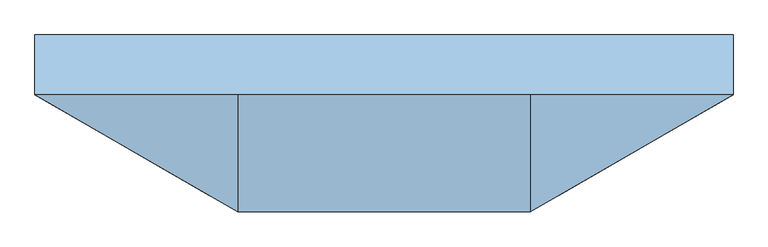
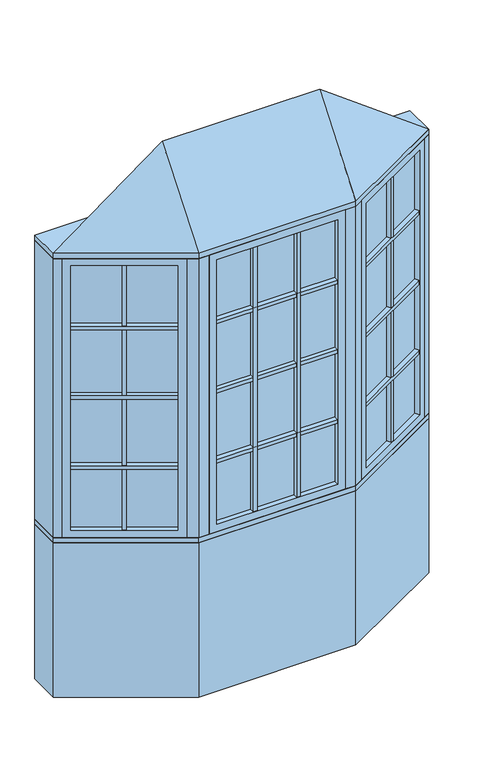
"""IFC4 building model written with IfcOpenShell, lengths in millimetres: window geometry, Pollard_Windows_Tudor Casement Bows and Bays : AML-BAY 30 AFR0514-08-500_GC."""

from ifc_helpers import new_model, si_unit, frame, origin, origin_with_axes, place, context, project, spatial, polyline, outline, extrude, faceted_brep, source, transform, mapped, element, save


def window_7edb3484(model_context):
    return source(origin(), model_context, "Body", "SolidModel", [
        extrude(outline(polyline([(445.7305346, -327.3537343), (434.7305346, -308.3011754), (815.6135794, -88.3982469), (826.6135794, -107.4508058), (445.7305346, -327.3537343)])), frame((0.0, 0.0, 1490.998), z_axis=(0.0, 0.0, 1.0), x_axis=(1.0, 0.0, 0.0)), (0.0, 0.0, 1.0), 18.0),
        extrude(outline(polyline([(432.1905346, -303.9017664), (421.1905346, -284.8492075), (802.0735794, -64.946279), (813.0735794, -83.9988379), (432.1905346, -303.9017664)])), frame((0.0, 0.0, 1490.998), z_axis=(0.0, 0.0, 1.0), x_axis=(1.0, 0.0, 0.0)), (0.0, 0.0, 1.0), 18.0),
        extrude(outline(polyline([(445.7305346, -327.3537343), (434.7305346, -308.3011754), (815.6135794, -88.3982469), (826.6135794, -107.4508058), (445.7305346, -327.3537343)])), frame((0.0, 0.0, 1140.998), z_axis=(0.0, 0.0, 1.0), x_axis=(1.0, 0.0, 0.0)), (0.0, 0.0, 1.0), 18.0),
        extrude(outline(polyline([(432.1905346, -303.9017664), (421.1905346, -284.8492075), (802.0735794, -64.946279), (813.0735794, -83.9988379), (432.1905346, -303.9017664)])), frame((0.0, 0.0, 1140.998), z_axis=(0.0, 0.0, 1.0), x_axis=(1.0, 0.0, 0.0)), (0.0, 0.0, 1.0), 18.0),
        extrude(outline(polyline([(445.7305346, -327.3537343), (434.7305346, -308.3011754), (815.6135794, -88.3982469), (826.6135794, -107.4508058), (445.7305346, -327.3537343)])), frame((0.0, 0.0, 1490.998), z_axis=(0.0, 0.0, 1.0), x_axis=(1.0, 0.0, 0.0)), (0.0, 0.0, 1.0), 18.0),
        extrude(outline(polyline([(432.1905346, -303.9017664), (421.1905346, -284.8492075), (802.0735794, -64.946279), (813.0735794, -83.9988379), (432.1905346, -303.9017664)])), frame((0.0, 0.0, 1490.998), z_axis=(0.0, 0.0, 1.0), x_axis=(1.0, 0.0, 0.0)), (0.0, 0.0, 1.0), 18.0),
        extrude(outline(polyline([(445.7305346, -327.3537343), (434.7305346, -308.3011754), (815.6135794, -88.3982469), (826.6135794, -107.4508058), (445.7305346, -327.3537343)])), frame((0.0, 0.0, 1490.998), z_axis=(0.0, 0.0, 1.0), x_axis=(1.0, 0.0, 0.0)), (0.0, 0.0, 1.0), 18.0),
        extrude(outline(polyline([(432.1905346, -303.9017664), (421.1905346, -284.8492075), (802.0735794, -64.946279), (813.0735794, -83.9988379), (432.1905346, -303.9017664)])), frame((0.0, 0.0, 1490.998), z_axis=(0.0, 0.0, 1.0), x_axis=(1.0, 0.0, 0.0)), (0.0, 0.0, 1.0), 18.0),
        extrude(outline(polyline([(445.7305346, -327.3537343), (434.7305346, -308.3011754), (815.6135794, -88.3982469), (826.6135794, -107.4508058), (445.7305346, -327.3537343)])), frame((0.0, 0.0, 1840.998), z_axis=(0.0, 0.0, 1.0), x_axis=(1.0, 0.0, 0.0)), (0.0, 0.0, 1.0), 18.0),
        extrude(outline(polyline([(432.1905346, -303.9017664), (421.1905346, -284.8492075), (802.0735794, -64.946279), (813.0735794, -83.9988379), (432.1905346, -303.9017664)])), frame((0.0, 0.0, 1840.998), z_axis=(0.0, 0.0, 1.0), x_axis=(1.0, 0.0, 0.0)), (0.0, 0.0, 1.0), 18.0),
        extrude(outline(polyline([(632.9662856, -193.8497112), (643.9662856, -212.9022701), (628.3778284, -221.9022701), (617.3778284, -202.8497112), (632.9662856, -193.8497112)])), frame((0.0, 0.0, 835.8628), z_axis=(0.0, 0.0, 1.0), x_axis=(1.0, 0.0, 0.0)), (0.0, 0.0, 1.0), 1328.2704),
        extrude(outline(polyline([(630.4262856, -189.4503021), (614.8378284, -198.4503021), (603.8378284, -179.3977432), (619.4262856, -170.3977432), (630.4262856, -189.4503021)])), frame((0.0, 0.0, 835.8628), z_axis=(0.0, 0.0, 1.0), x_axis=(1.0, 0.0, 0.0)), (0.0, 0.0, 1.0), 1328.2704),
        extrude(outline(polyline([(826.612102, -82.0482469), (423.7320119, -314.6511754), (421.1920119, -310.2517664), (824.072102, -77.6488379), (826.612102, -82.0482469)])), frame((0.0, 0.0, 823.1628), z_axis=(0.0, 0.0, 1.0), x_axis=(1.0, 0.0, 0.0)), (0.0, 0.0, 1.0), 1353.6704),
        faceted_brep([(815.6135794, -88.3982469, 835.8628), (828.3135794, -110.3952922, 835.8628), (828.3135794, -110.3952922, 2164.1332), (815.6135794, -88.3982469, 2164.1332), (824.072102, -77.6488379, 823.1628), (826.612102, -82.0482469, 823.1628), (826.612102, -82.0482469, 2176.8332), (824.072102, -77.6488379, 2176.8332), (800.3735794, -62.0017926, 835.8628), (813.0735794, -83.9988379, 835.8628), (813.0735794, -83.9988379, 2164.1332), (800.3735794, -62.0017926, 2164.1332), (859.3734073, -92.4628922, 799.998), (831.4334073, -44.0693926, 799.998), (831.4334073, -44.0693926, 2199.998), (859.3734073, -92.4628922, 2199.998), (447.4305346, -330.2982207, 2164.1332), (434.7305346, -308.3011754, 2164.1332), (423.7320119, -314.6511754, 2176.8332), (421.1920119, -310.2517664, 2176.8332), (432.1905346, -303.9017664, 2164.1332), (419.4905346, -281.9047211, 2164.1332), (388.4307067, -299.8371211, 2199.998), (416.3707067, -348.2306207, 2199.998), (447.4305346, -330.2982207, 835.8628), (434.7305346, -308.3011754, 835.8628), (423.7320119, -314.6511754, 823.1628), (421.1920119, -310.2517664, 823.1628), (432.1905346, -303.9017664, 835.8628), (419.4905346, -281.9047211, 835.8628), (388.4307067, -299.8371211, 799.998), (416.3707067, -348.2306207, 799.998)], [[[0, 1, 2, 3]], [[4, 5, 6, 7]], [[8, 9, 10, 11]], [[12, 13, 14, 15]], [[3, 2, 16, 17]], [[7, 6, 18, 19]], [[11, 10, 20, 21]], [[15, 14, 22, 23]], [[17, 16, 24, 25]], [[19, 18, 26, 27]], [[21, 20, 28, 29]], [[23, 22, 30, 31]], [[25, 24, 1, 0]], [[5, 26, 18, 6], [3, 17, 25, 0]], [[27, 26, 5, 4]], [[7, 19, 27, 4], [9, 28, 20, 10]], [[29, 28, 9, 8]], [[13, 30, 22, 14], [11, 21, 29, 8]], [[31, 30, 13, 12]], [[15, 23, 31, 12], [1, 24, 16, 2]]]),
        extrude(outline(polyline([(111.9683455, -347.8306207), (111.9683455, -369.8306207), (93.9683455, -369.8306207), (93.9683455, -347.8306207), (111.9683455, -347.8306207)])), frame((0.0, 0.0, 835.8628), z_axis=(0.0, 0.0, 1.0), x_axis=(1.0, 0.0, 0.0)), (0.0, 0.0, 1.0), 1328.2704),
        extrude(outline(polyline([(111.9683455, -342.7506207), (93.9683455, -342.7506207), (93.9683455, -320.7506207), (111.9683455, -320.7506207), (111.9683455, -342.7506207)])), frame((0.0, 0.0, 835.8628), z_axis=(0.0, 0.0, 1.0), x_axis=(1.0, 0.0, 0.0)), (0.0, 0.0, 1.0), 1328.2704),
        extrude(outline(polyline([(-93.9683455, -347.8306207), (-93.9683455, -369.8306207), (-111.9683455, -369.8306207), (-111.9683455, -347.8306207), (-93.9683455, -347.8306207)])), frame((0.0, 0.0, 835.8628), z_axis=(0.0, 0.0, 1.0), x_axis=(1.0, 0.0, 0.0)), (0.0, 0.0, 1.0), 1328.2704),
        extrude(outline(polyline([(-93.9683455, -342.7506207), (-111.9683455, -342.7506207), (-111.9683455, -320.7506207), (-93.9683455, -320.7506207), (-93.9683455, -342.7506207)])), frame((0.0, 0.0, 835.8628), z_axis=(0.0, 0.0, 1.0), x_axis=(1.0, 0.0, 0.0)), (0.0, 0.0, 1.0), 1328.2704),
        extrude(outline(polyline([(-287.2046365, -369.8306207), (-287.2046365, -347.8306207), (287.2046365, -347.8306207), (287.2046365, -369.8306207), (-287.2046365, -369.8306207)])), frame((0.0, 0.0, 1140.998), z_axis=(0.0, 0.0, 1.0), x_axis=(1.0, 0.0, 0.0)), (0.0, 0.0, 1.0), 18.0),
        extrude(outline(polyline([(-287.2046365, -342.7506207), (-287.2046365, -320.7506207), (287.2046365, -320.7506207), (287.2046365, -342.7506207), (-287.2046365, -342.7506207)])), frame((0.0, 0.0, 1140.998), z_axis=(0.0, 0.0, 1.0), x_axis=(1.0, 0.0, 0.0)), (0.0, 0.0, 1.0), 18.0),
        extrude(outline(polyline([(-287.2046365, -369.8306207), (-287.2046365, -347.8306207), (287.2046365, -347.8306207), (287.2046365, -369.8306207), (-287.2046365, -369.8306207)])), frame((0.0, 0.0, 1490.998), z_axis=(0.0, 0.0, 1.0), x_axis=(1.0, 0.0, 0.0)), (0.0, 0.0, 1.0), 18.0),
        extrude(outline(polyline([(-287.2046365, -342.7506207), (-287.2046365, -320.7506207), (287.2046365, -320.7506207), (287.2046365, -342.7506207), (-287.2046365, -342.7506207)])), frame((0.0, 0.0, 1490.998), z_axis=(0.0, 0.0, 1.0), x_axis=(1.0, 0.0, 0.0)), (0.0, 0.0, 1.0), 18.0),
        extrude(outline(polyline([(-287.2046365, -369.8306207), (-287.2046365, -347.8306207), (287.2046365, -347.8306207), (287.2046365, -369.8306207), (-287.2046365, -369.8306207)])), frame((0.0, 0.0, 1490.998), z_axis=(0.0, 0.0, 1.0), x_axis=(1.0, 0.0, 0.0)), (0.0, 0.0, 1.0), 18.0),
        extrude(outline(polyline([(-287.2046365, -342.7506207), (-287.2046365, -320.7506207), (287.2046365, -320.7506207), (287.2046365, -342.7506207), (-287.2046365, -342.7506207)])), frame((0.0, 0.0, 1490.998), z_axis=(0.0, 0.0, 1.0), x_axis=(1.0, 0.0, 0.0)), (0.0, 0.0, 1.0), 18.0),
        extrude(outline(polyline([(-287.2046365, -369.8306207), (-287.2046365, -347.8306207), (287.2046365, -347.8306207), (287.2046365, -369.8306207), (-287.2046365, -369.8306207)])), frame((0.0, 0.0, 1490.998), z_axis=(0.0, 0.0, 1.0), x_axis=(1.0, 0.0, 0.0)), (0.0, 0.0, 1.0), 18.0),
        extrude(outline(polyline([(-287.2046365, -342.7506207), (-287.2046365, -320.7506207), (287.2046365, -320.7506207), (287.2046365, -342.7506207), (-287.2046365, -342.7506207)])), frame((0.0, 0.0, 1490.998), z_axis=(0.0, 0.0, 1.0), x_axis=(1.0, 0.0, 0.0)), (0.0, 0.0, 1.0), 18.0),
        extrude(outline(polyline([(-826.6135794, -107.4508058), (-815.6135794, -88.3982469), (-434.7305346, -308.3011754), (-445.7305346, -327.3537343), (-826.6135794, -107.4508058)])), frame((0.0, 0.0, 1140.998), z_axis=(0.0, 0.0, 1.0), x_axis=(1.0, 0.0, 0.0)), (0.0, 0.0, 1.0), 18.0),
        extrude(outline(polyline([(-813.0735794, -83.9988379), (-802.0735794, -64.946279), (-421.1905346, -284.8492075), (-432.1905346, -303.9017664), (-813.0735794, -83.9988379)])), frame((0.0, 0.0, 1140.998), z_axis=(0.0, 0.0, 1.0), x_axis=(1.0, 0.0, 0.0)), (0.0, 0.0, 1.0), 18.0),
        extrude(outline(polyline([(-826.6135794, -107.4508058), (-815.6135794, -88.3982469), (-434.7305346, -308.3011754), (-445.7305346, -327.3537343), (-826.6135794, -107.4508058)])), frame((0.0, 0.0, 1490.998), z_axis=(0.0, 0.0, 1.0), x_axis=(1.0, 0.0, 0.0)), (0.0, 0.0, 1.0), 18.0),
        extrude(outline(polyline([(-813.0735794, -83.9988379), (-802.0735794, -64.946279), (-421.1905346, -284.8492075), (-432.1905346, -303.9017664), (-813.0735794, -83.9988379)])), frame((0.0, 0.0, 1490.998), z_axis=(0.0, 0.0, 1.0), x_axis=(1.0, 0.0, 0.0)), (0.0, 0.0, 1.0), 18.0),
        extrude(outline(polyline([(-826.6135794, -107.4508058), (-815.6135794, -88.3982469), (-434.7305346, -308.3011754), (-445.7305346, -327.3537343), (-826.6135794, -107.4508058)])), frame((0.0, 0.0, 1490.998), z_axis=(0.0, 0.0, 1.0), x_axis=(1.0, 0.0, 0.0)), (0.0, 0.0, 1.0), 18.0),
        extrude(outline(polyline([(-813.0735794, -83.9988379), (-802.0735794, -64.946279), (-421.1905346, -284.8492075), (-432.1905346, -303.9017664), (-813.0735794, -83.9988379)])), frame((0.0, 0.0, 1490.998), z_axis=(0.0, 0.0, 1.0), x_axis=(1.0, 0.0, 0.0)), (0.0, 0.0, 1.0), 18.0),
        extrude(outline(polyline([(-826.6135794, -107.4508058), (-815.6135794, -88.3982469), (-434.7305346, -308.3011754), (-445.7305346, -327.3537343), (-826.6135794, -107.4508058)])), frame((0.0, 0.0, 1490.998), z_axis=(0.0, 0.0, 1.0), x_axis=(1.0, 0.0, 0.0)), (0.0, 0.0, 1.0), 18.0),
        extrude(outline(polyline([(-813.0735794, -83.9988379), (-802.0735794, -64.946279), (-421.1905346, -284.8492075), (-432.1905346, -303.9017664), (-813.0735794, -83.9988379)])), frame((0.0, 0.0, 1490.998), z_axis=(0.0, 0.0, 1.0), x_axis=(1.0, 0.0, 0.0)), (0.0, 0.0, 1.0), 18.0),
        extrude(outline(polyline([(-826.6135794, -107.4508058), (-815.6135794, -88.3982469), (-434.7305346, -308.3011754), (-445.7305346, -327.3537343), (-826.6135794, -107.4508058)])), frame((0.0, 0.0, 1840.998), z_axis=(0.0, 0.0, 1.0), x_axis=(1.0, 0.0, 0.0)), (0.0, 0.0, 1.0), 18.0),
        extrude(outline(polyline([(-813.0735794, -83.9988379), (-802.0735794, -64.946279), (-421.1905346, -284.8492075), (-432.1905346, -303.9017664), (-813.0735794, -83.9988379)])), frame((0.0, 0.0, 1840.998), z_axis=(0.0, 0.0, 1.0), x_axis=(1.0, 0.0, 0.0)), (0.0, 0.0, 1.0), 18.0),
        extrude(outline(polyline([(-287.2046365, -369.8306207), (-287.2046365, -347.8306207), (287.2046365, -347.8306207), (287.2046365, -369.8306207), (-287.2046365, -369.8306207)])), frame((0.0, 0.0, 1840.998), z_axis=(0.0, 0.0, 1.0), x_axis=(1.0, 0.0, 0.0)), (0.0, 0.0, 1.0), 18.0),
        extrude(outline(polyline([(-287.2046365, -342.7506207), (-287.2046365, -320.7506207), (287.2046365, -320.7506207), (287.2046365, -342.7506207), (-287.2046365, -342.7506207)])), frame((0.0, 0.0, 1840.998), z_axis=(0.0, 0.0, 1.0), x_axis=(1.0, 0.0, 0.0)), (0.0, 0.0, 1.0), 18.0),
        extrude(outline(polyline([(-617.3778284, -202.8497112), (-628.3778284, -221.9022701), (-643.9662856, -212.9022701), (-632.9662856, -193.8497112), (-617.3778284, -202.8497112)])), frame((0.0, 0.0, 835.8628), z_axis=(0.0, 0.0, 1.0), x_axis=(1.0, 0.0, 0.0)), (0.0, 0.0, 1.0), 1328.2704),
        extrude(outline(polyline([(-614.8378284, -198.4503021), (-630.4262856, -189.4503021), (-619.4262856, -170.3977432), (-603.8378284, -179.3977432), (-614.8378284, -198.4503021)])), frame((0.0, 0.0, 835.8628), z_axis=(0.0, 0.0, 1.0), x_axis=(1.0, 0.0, 0.0)), (0.0, 0.0, 1.0), 1328.2704),
        extrude(outline(polyline([(-423.7320119, -314.6511754), (-826.612102, -82.0482469), (-824.072102, -77.6488379), (-421.1920119, -310.2517664), (-423.7320119, -314.6511754)])), frame((0.0, 0.0, 823.1628), z_axis=(0.0, 0.0, 1.0), x_axis=(1.0, 0.0, 0.0)), (0.0, 0.0, 1.0), 1353.6704),
        faceted_brep([(-432.1905346, -303.9017664, 2164.1332), (-419.4905346, -281.9047211, 2164.1332), (-419.4905346, -281.9047211, 835.8628), (-432.1905346, -303.9017664, 835.8628), (-423.7320119, -314.6511754, 2176.8332), (-421.1920119, -310.2517664, 2176.8332), (-421.1920119, -310.2517664, 823.1628), (-423.7320119, -314.6511754, 823.1628), (-447.4305346, -330.2982207, 2164.1332), (-434.7305346, -308.3011754, 2164.1332), (-434.7305346, -308.3011754, 835.8628), (-447.4305346, -330.2982207, 835.8628), (-388.4307067, -299.8371211, 2199.998), (-416.3707067, -348.2306207, 2199.998), (-416.3707067, -348.2306207, 799.998), (-388.4307067, -299.8371211, 799.998), (-800.3735794, -62.0017926, 835.8628), (-813.0735794, -83.9988379, 835.8628), (-824.072102, -77.6488379, 823.1628), (-826.612102, -82.0482469, 823.1628), (-815.6135794, -88.3982469, 835.8628), (-828.3135794, -110.3952922, 835.8628), (-859.3734073, -92.4628922, 799.998), (-831.4334073, -44.0693926, 799.998), (-800.3735794, -62.0017926, 2164.1332), (-813.0735794, -83.9988379, 2164.1332), (-824.072102, -77.6488379, 2176.8332), (-826.612102, -82.0482469, 2176.8332), (-815.6135794, -88.3982469, 2164.1332), (-828.3135794, -110.3952922, 2164.1332), (-859.3734073, -92.4628922, 2199.998), (-831.4334073, -44.0693926, 2199.998)], [[[0, 1, 2, 3]], [[4, 5, 6, 7]], [[8, 9, 10, 11]], [[12, 13, 14, 15]], [[3, 2, 16, 17]], [[7, 6, 18, 19]], [[11, 10, 20, 21]], [[15, 14, 22, 23]], [[17, 16, 24, 25]], [[19, 18, 26, 27]], [[21, 20, 28, 29]], [[23, 22, 30, 31]], [[15, 23, 31, 12], [1, 24, 16, 2]], [[25, 24, 1, 0]], [[5, 26, 18, 6], [3, 17, 25, 0]], [[27, 26, 5, 4]], [[7, 19, 27, 4], [9, 28, 20, 10]], [[29, 28, 9, 8]], [[13, 30, 22, 14], [11, 21, 29, 8]], [[31, 30, 13, 12]]]),
        extrude(outline(polyline([(299.9046365, -347.8306207), (-299.9046365, -347.8306207), (-299.9046365, -342.7506207), (299.9046365, -342.7506207), (299.9046365, -347.8306207)])), frame((0.0, 0.0, 823.1628), z_axis=(0.0, 0.0, 1.0), x_axis=(1.0, 0.0, 0.0)), (0.0, 0.0, 1.0), 1353.6704),
        faceted_brep([(287.2046365, -347.8306207, 835.8628), (287.2046365, -373.2306207, 835.8628), (287.2046365, -373.2306207, 2164.1332), (287.2046365, -347.8306207, 2164.1332), (299.9046365, -342.7506207, 823.1628), (299.9046365, -347.8306207, 823.1628), (299.9046365, -347.8306207, 2176.8332), (299.9046365, -342.7506207, 2176.8332), (287.2046365, -317.3506207, 835.8628), (287.2046365, -342.7506207, 835.8628), (287.2046365, -342.7506207, 2164.1332), (287.2046365, -317.3506207, 2164.1332), (323.0694365, -373.2306207, 799.998), (323.0694365, -317.3506207, 799.998), (323.0694365, -317.3506207, 2199.998), (323.0694365, -373.2306207, 2199.998), (-287.2046365, -373.2306207, 2164.1332), (-287.2046365, -347.8306207, 2164.1332), (-299.9046365, -347.8306207, 2176.8332), (-299.9046365, -342.7506207, 2176.8332), (-287.2046365, -342.7506207, 2164.1332), (-287.2046365, -317.3506207, 2164.1332), (-323.0694365, -317.3506207, 2199.998), (-323.0694365, -373.2306207, 2199.998), (-287.2046365, -373.2306207, 835.8628), (-287.2046365, -347.8306207, 835.8628), (-299.9046365, -347.8306207, 823.1628), (-299.9046365, -342.7506207, 823.1628), (-287.2046365, -342.7506207, 835.8628), (-287.2046365, -317.3506207, 835.8628), (-323.0694365, -317.3506207, 799.998), (-323.0694365, -373.2306207, 799.998)], [[[0, 1, 2, 3]], [[4, 5, 6, 7]], [[8, 9, 10, 11]], [[12, 13, 14, 15]], [[3, 2, 16, 17]], [[7, 6, 18, 19]], [[11, 10, 20, 21]], [[15, 14, 22, 23]], [[17, 16, 24, 25]], [[19, 18, 26, 27]], [[21, 20, 28, 29]], [[23, 22, 30, 31]], [[15, 23, 31, 12], [1, 24, 16, 2]], [[25, 24, 1, 0]], [[5, 26, 18, 6], [3, 17, 25, 0]], [[27, 26, 5, 4]], [[7, 19, 27, 4], [9, 28, 20, 10]], [[29, 28, 9, 8]], [[13, 30, 22, 14], [11, 21, 29, 8]], [[31, 30, 13, 12]]]),
        faceted_brep([(890.0, -74.7806207, 2225.398), (373.0694365, -373.2306207, 2225.398), (-373.0694365, -373.2306207, 2225.398), (-890.0, -74.7806207, 2225.398), (-373.0694365, -74.7806207, 2606.398), (373.0694365, -74.7806207, 2606.398)], [[[0, 1, 2, 3]], [[3, 2, 4]], [[2, 1, 5, 4]], [[1, 0, 5]], [[0, 3, 4, 5]]]),
        extrude(outline(polyline([(-890.0, 77.6193793), (890.0, 77.6193793), (890.0, -74.7806207), (373.0694365, -373.2306207), (-373.0694365, -373.2306207), (-890.0, -74.7806207), (-890.0, 77.6193793)])), frame((0.0, 0.0, 2199.998), z_axis=(0.0, 0.0, 1.0), x_axis=(1.0, 0.0, 0.0)), (0.0, 0.0, 1.0), 25.4),
        extrude(outline(polyline([(-890.0, -74.7806207), (-890.0, 77.6193793), (-849.1645431, 77.6193793), (-849.1645431, -74.7806207), (-859.3734073, -92.4628922), (-890.0, -74.7806207)])), frame((0.0, 0.0, 799.998), z_axis=(0.0, 0.0, 1.0), x_axis=(1.0, 0.0, 0.0)), (0.0, 0.0, 1.0), 1400.0),
        extrude(outline(polyline([(890.0, 77.6193793), (890.0, -74.7806207), (859.3734073, -92.4628922), (849.1645431, -74.7806207), (849.1645431, 77.6193793), (890.0, 77.6193793)])), frame((0.0, 0.0, 799.998), z_axis=(0.0, 0.0, 1.0), x_axis=(1.0, 0.0, 0.0)), (0.0, 0.0, 1.0), 1400.0),
        extrude(outline(polyline([(373.0694365, -373.2306207), (323.0694365, -373.2306207), (323.0694365, -323.2306207), (359.6719769, -323.2306207), (391.3707067, -304.9293505), (416.3707067, -348.2306207), (373.0694365, -373.2306207)])), frame((0.0, 0.0, 799.998), z_axis=(0.0, 0.0, 1.0), x_axis=(1.0, 0.0, 0.0)), (0.0, 0.0, 1.0), 1400.0),
        extrude(outline(polyline([(-373.0694365, -373.2306207), (-416.3707067, -348.2306207), (-391.3707067, -304.9293505), (-359.6719769, -323.2306207), (-323.0694365, -323.2306207), (-323.0694365, -373.2306207), (-373.0694365, -373.2306207)])), frame((0.0, 0.0, 799.998), z_axis=(0.0, 0.0, 1.0), x_axis=(1.0, 0.0, 0.0)), (0.0, 0.0, 1.0), 1400.0),
        extrude(outline(polyline([(-373.0694365, -373.2306207), (-890.0, -74.7806207), (-890.0, 77.6193793), (-849.1645431, 77.6193793), (-332.2339796, -220.8306207), (332.2339796, -220.8306207), (849.1645431, 77.6193793), (890.0, 77.6193793), (890.0, -74.7806207), (373.0694365, -373.2306207), (-373.0694365, -373.2306207)])), frame((0.0, 0.0, 774.598), z_axis=(0.0, 0.0, 1.0), x_axis=(1.0, 0.0, 0.0)), (0.0, 0.0, 1.0), 25.4),
        extrude(outline(polyline([(-890.0, -74.7806207), (-890.0, 77.6193793), (-849.1645431, 77.6193793), (-332.2339796, -220.8306207), (332.2339796, -220.8306207), (849.1645431, 77.6193793), (890.0, 77.6193793), (890.0, -74.7806207), (373.0694365, -373.2306207), (-373.0694365, -373.2306207), (-890.0, -74.7806207)])), origin_with_axes(), (0.0, 0.0, 1.0), 774.598),
    ])


if __name__ == "__main__":
    model = new_model("IFC4")
    model_context = context("Model", 3, world=origin())
    ifc_project = project(units=[si_unit("LENGTHUNIT", "METRE", prefix="MILLI")], contexts=[model_context])
    site = spatial("IfcSite", under=ifc_project)
    building = spatial("IfcBuilding", under=site)
    placement = place(None, origin())
    window_shape = window_7edb3484(model_context)
    element("IfcWindow", 1, ObjectType="Pollard_Windows_Tudor Casement Bows and Bays : AML-BAY 30 AFR0514-08-500_GC", at=placement, inside=building, context=model_context, shape_type="MappedRepresentation", body=[
        mapped(window_shape, transform((0.0, 0.0, 0.0), x_axis=(1.0, 0.0, 0.0), y_axis=(0.0, 1.0, 0.0), z_axis=(0.0, 0.0, 1.0))),
    ])
    save(model, "model.ifc")
